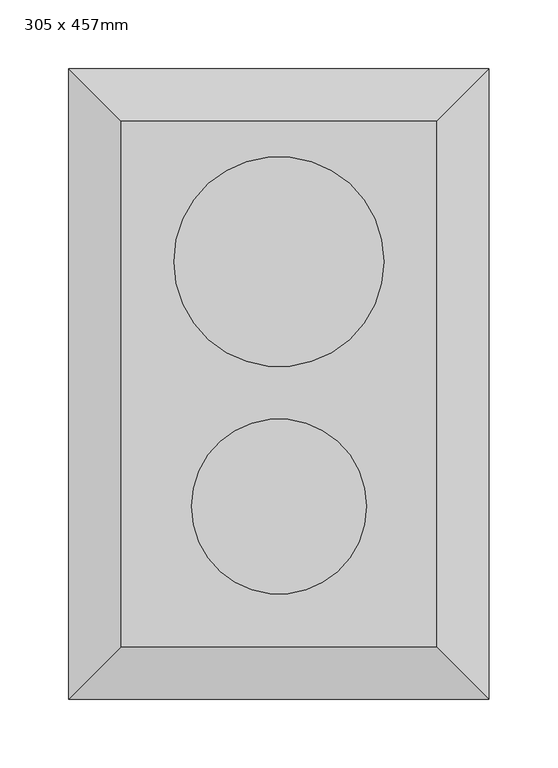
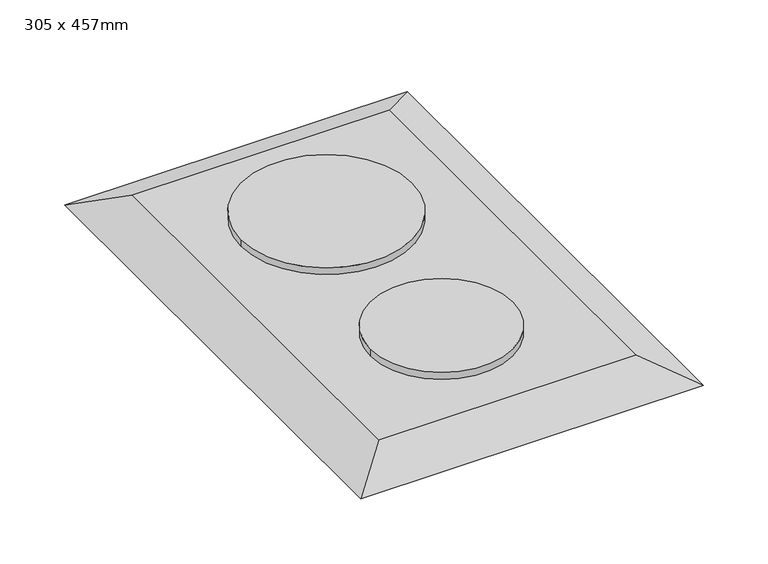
"""IFC4 building model written with IfcOpenShell, lengths in millimetres: proxy geometry, M_炉灶面 - 2 套 : 305 x 457mm."""

from ifc_helpers import new_model, si_unit, point, frame, frame_2d, origin, place, context, project, spatial, circle_curve, trimmed, segment, composite_curve, outline, extrude, faceted_brep, source, transform, mapped, element, save


def proxy_305_x_457mm_ebea1746(model_context):
    return source(origin(), model_context, "Body", "SolidModel", [
        extrude(outline(composite_curve([segment(trimmed(circle_curve(frame_2d((76.2, 119.0247956)), 76.2), [point((152.4, 119.0247956))], [point((0.0, 119.0247956))], False, "CARTESIAN"), True, "CONTINUOUS"), segment(trimmed(circle_curve(frame_2d((76.2, 119.0247956)), 76.2), [point((0.0, 119.0247956))], [point((152.4, 119.0247956))], False, "CARTESIAN"), True, "CONTINUOUS")], self_intersect=False)), frame((0.0, 0.0, 919.05), z_axis=(0.0, 0.0, 1.0), x_axis=(1.0, 0.0, 0.0)), (0.0, 0.0, 1.0), 6.35),
        extrude(outline(composite_curve([segment(trimmed(circle_curve(frame_2d((76.2, -58.5752044)), 63.5), [point((139.7, -58.5752044))], [point((12.7, -58.5752044))], False, "CARTESIAN"), True, "CONTINUOUS"), segment(trimmed(circle_curve(frame_2d((76.2, -58.5752044)), 63.5), [point((12.7, -58.5752044))], [point((139.7, -58.5752044))], False, "CARTESIAN"), True, "CONTINUOUS")], self_intersect=False)), frame((0.0, 0.0, 919.05), z_axis=(0.0, 0.0, 1.0), x_axis=(1.0, 0.0, 0.0)), (0.0, 0.0, 1.0), 6.35),
        faceted_brep([(190.6, 220.6247956, 919.05), (-38.2, 220.6247956, 919.05), (-38.2, -160.1752044, 919.05), (190.6, -160.1752044, 919.05), (228.7, 258.7247956, 900.0), (228.7, -198.2752044, 900.0), (-76.3, -198.2752044, 900.0), (-76.3, 258.7247956, 900.0)], [[[0, 1, 2, 3]], [[4, 5, 6, 7]], [[4, 7, 1, 0]], [[7, 6, 2, 1]], [[6, 5, 3, 2]], [[5, 4, 0, 3]]]),
    ])


if __name__ == "__main__":
    model = new_model("IFC4")
    model_context = context("Model", 3, world=origin())
    ifc_project = project(units=[si_unit("LENGTHUNIT", "METRE", prefix="MILLI")], contexts=[model_context])
    site = spatial("IfcSite", under=ifc_project)
    building = spatial("IfcBuilding", under=site)
    placement = place(None, origin())
    proxy_305_x_457mm_shape = proxy_305_x_457mm_ebea1746(model_context)
    element("IfcBuildingElementProxy", 1, Name="M_炉灶面 - 2 套 : 305 x 457mm", ObjectType="M_炉灶面 - 2 套 : 305 x 457mm", at=placement, inside=building, context=model_context, shape_type="MappedRepresentation", body=[
        mapped(proxy_305_x_457mm_shape, transform((0.0, 0.0, 0.0), x_axis=(1.0, 0.0, 0.0), y_axis=(0.0, 1.0, 0.0), z_axis=(0.0, 0.0, 1.0))),
    ])
    save(model, "model.ifc")
